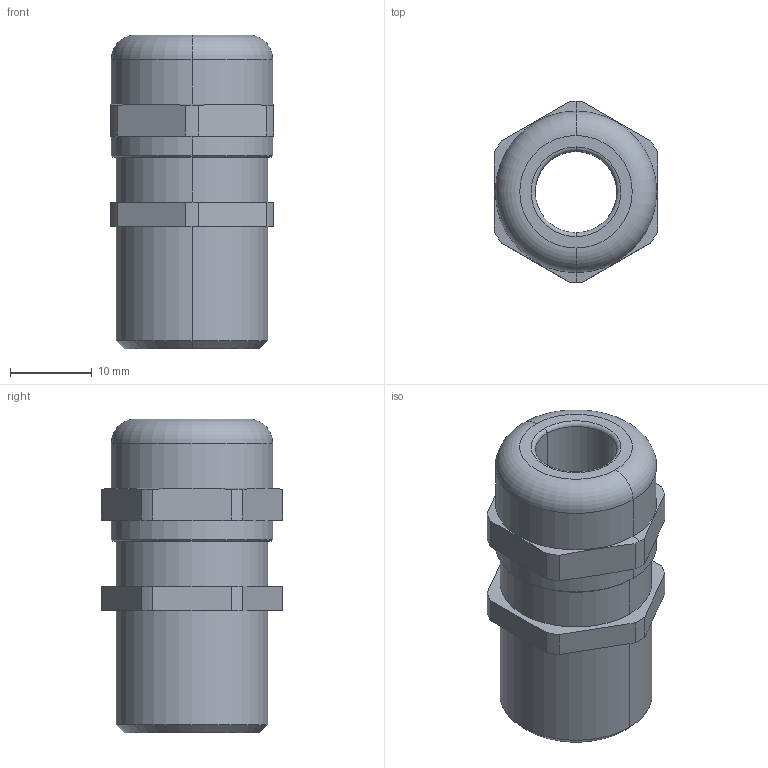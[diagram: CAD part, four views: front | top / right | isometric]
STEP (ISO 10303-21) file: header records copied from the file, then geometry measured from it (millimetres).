
FILE_DESCRIPTION (( 'STEP AP203' ), '1' );
FILE_NAME ('50.011-15MM.STEP', '2005-11-22T08:39:22', ( ' ' ), ( '' ), 'SwSTEP 2.0', 'SolidWorks 2005278', '' );
FILE_SCHEMA (( 'CONFIG_CONTROL_DESIGN' ));
Length unit declared in the file: millimetre
Products named in the file (1): 50.011-15MM
Bounding box: 20 x 22.2 x 38.5 mm (x, y, z)
Volume: 8196.7 mm3; surface area: 4105.3 mm2
Topology: 1 solids, 1 shells, 90 faces, 232 edges, 150 vertices
Faces by surface type: plane 54, cylinder 24, cone 8, torus 4
Entity records: 2835 total; most frequent: CARTESIAN_POINT 525, ORIENTED_EDGE 464, DIRECTION 464, EDGE_CURVE 232, VECTOR 158, LINE 158, AXIS2_PLACEMENT_3D 153, VERTEX_POINT 150
